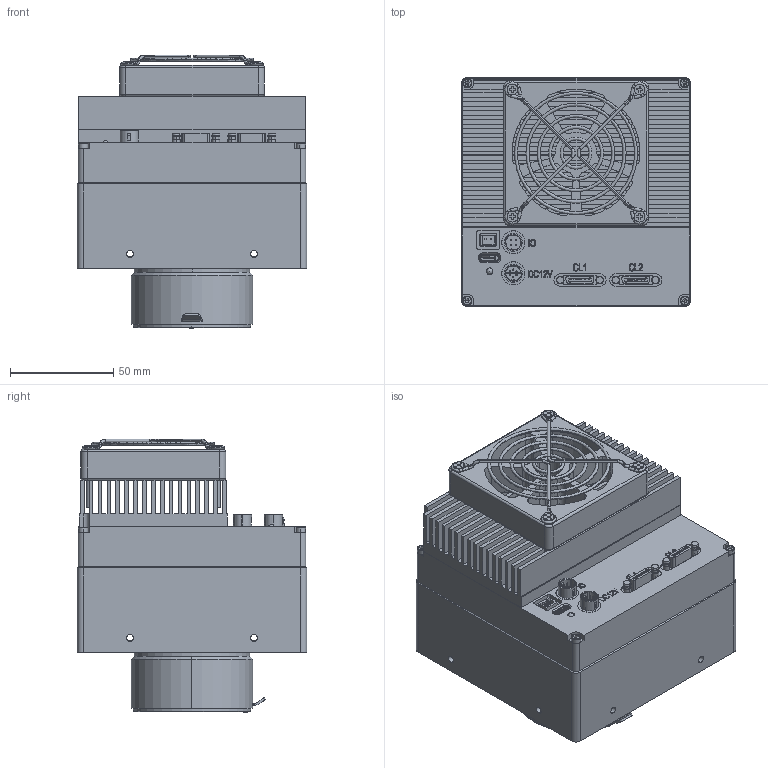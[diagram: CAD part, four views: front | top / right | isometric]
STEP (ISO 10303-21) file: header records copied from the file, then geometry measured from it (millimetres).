
FILE_DESCRIPTION (( 'STEP AP203' ), '1' );
FILE_NAME ('TTS61M2CL-13M(C)-A01-V1.1.0.STEP', '2022-08-11T11:51:06', ( '微软用户' ), ( '微软中国' ), 'SwSTEP 2.0', 'SolidWorks 2017', '' );
FILE_SCHEMA (( 'CONFIG_CONTROL_DESIGN' ));
Length unit declared in the file: millimetre
Products named in the file (1): TTS61M2CL-13M(C)-A01-V1.1.0
Bounding box: 111 x 111 x 132.27 mm (x, y, z)
Surface area: 148053.7 mm2 (no closed solid volume)
Topology: 0 solids, 96 shells, 977 faces, 3706 edges, 2770 vertices
Faces by surface type: plane 478, cylinder 334, bspline 77, cone 61, torus 16, sphere 11
Entity records: 42902 total; most frequent: CARTESIAN_POINT 12477, DIRECTION 6254, ORIENTED_EDGE 5536, EDGE_CURVE 3675, VERTEX_POINT 2758, VECTOR 2364, LINE 2364, AXIS2_PLACEMENT_3D 1945
